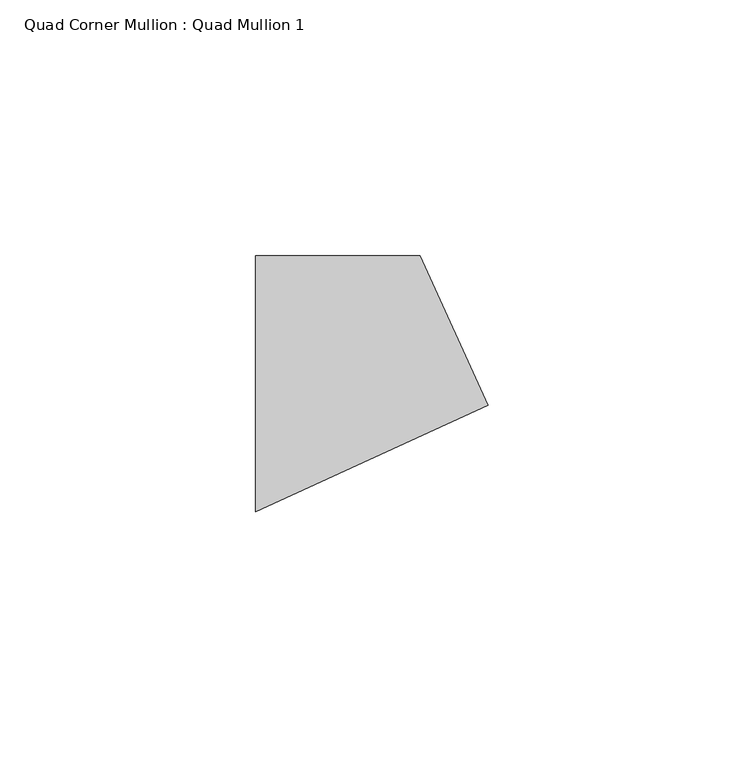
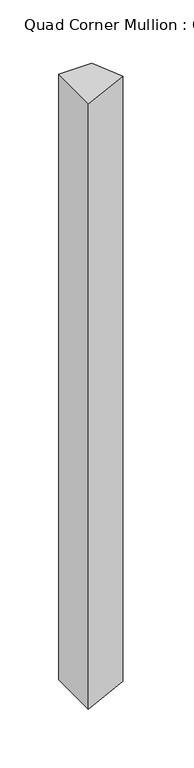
"""IFC4 building model written with IfcOpenShell, lengths in millimetres: member geometry, Quad Corner Mullion : Quad Mullion 1."""

from ifc_helpers import new_model, si_unit, frame, origin, place, context, project, spatial, polyline, outline, extrude, source, transform, mapped, element, save


def quad_corner_mullion_quad_mullion_1_b01626ad(model_context):
    return source(origin(), model_context, "Body", "SweptSolid", [
        extrude(outline(polyline([(29.4125559, -4.1926582), (-16.0523154, -25.0), (-16.0523154, 25.0), (16.0523154, 25.0), (29.4125559, -4.1926582)])), frame((0.0, 0.0, -626.6666667), z_axis=(0.0, 0.0, 1.0), x_axis=(1.0, 0.0, 0.0)), (0.0, 0.0, 1.0), 626.6666667),
    ])


if __name__ == "__main__":
    model = new_model("IFC4")
    model_context = context("Model", 3, world=origin())
    ifc_project = project(units=[si_unit("LENGTHUNIT", "METRE", prefix="MILLI")], contexts=[model_context])
    site = spatial("IfcSite", under=ifc_project)
    building = spatial("IfcBuilding", under=site)
    placement = place(None, origin())
    quad_corner_mullion_quad_mullion_1_shape = quad_corner_mullion_quad_mullion_1_b01626ad(model_context)
    element("IfcMember", 1, ObjectType="Quad Corner Mullion : Quad Mullion 1", at=placement, inside=building, context=model_context, shape_type="MappedRepresentation", body=[
        mapped(quad_corner_mullion_quad_mullion_1_shape, transform((0.0, 0.0, 0.0), x_axis=(1.0, 0.0, 0.0), y_axis=(0.0, 1.0, 0.0), z_axis=(0.0, 0.0, 1.0))),
    ])
    save(model, "model.ifc")
